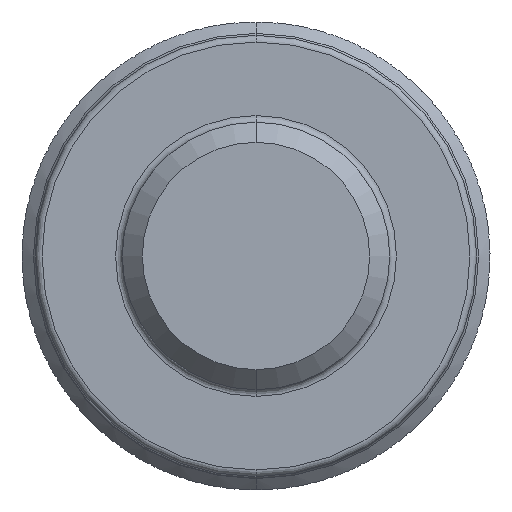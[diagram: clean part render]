
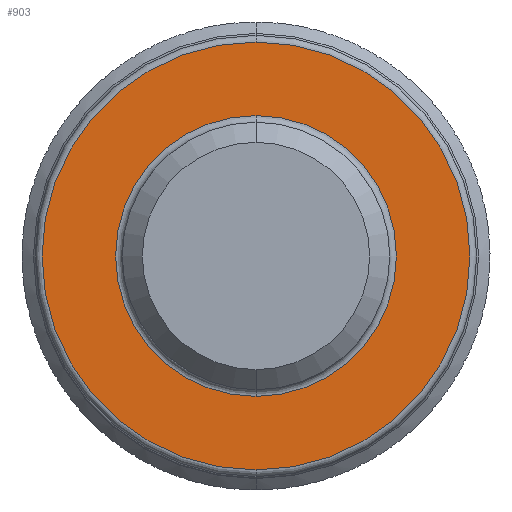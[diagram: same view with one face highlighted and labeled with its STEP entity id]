
A CAD part, front view. The second image highlights one B-rep face of the part: STEP entity #903.
In plain terms, the highlighted planar face has unit normal (0, -1, 0).
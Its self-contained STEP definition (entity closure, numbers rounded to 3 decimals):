
#3 = VERTEX_POINT ( 'NONE', #3061 ) ;
#420 = ORIENTED_EDGE ( 'NONE', *, *, #3826, .T. ) ;
#633 = DIRECTION ( 'NONE',  ( 0., 0., -1. ) ) ;
#760 = DIRECTION ( 'NONE',  ( 0., 0., -1. ) ) ;
#903 = ADVANCED_FACE ( 'NONE', ( #3711, #6793 ), #2948, .T. ) ;
#974 = CARTESIAN_POINT ( 'NONE',  ( 0., -4., 3.2 ) ) ;
#1297 = ORIENTED_EDGE ( 'NONE', *, *, #8591, .T. ) ;
#1489 = CARTESIAN_POINT ( 'NONE',  ( 0., -4., 0. ) ) ;
#1947 = ORIENTED_EDGE ( 'NONE', *, *, #2891, .T. ) ;
#2070 = CIRCLE ( 'NONE', #7887, 3.2 ) ;
#2741 = EDGE_LOOP ( 'NONE', ( #1947, #1297 ) ) ;
#2891 = EDGE_CURVE ( 'NONE', #3938, #3, #8259, .T. ) ;
#2934 = DIRECTION ( 'NONE',  ( 0., 0., -1. ) ) ;
#2948 = PLANE ( 'NONE',  #7127 ) ;
#3061 = CARTESIAN_POINT ( 'NONE',  ( 0., -4., 2.1 ) ) ;
#3163 = DIRECTION ( 'NONE',  ( 0., 1., 0. ) ) ;
#3182 = CARTESIAN_POINT ( 'NONE',  ( 0., -4., -2.1 ) ) ;
#3571 = VERTEX_POINT ( 'NONE', #974 ) ;
#3711 = FACE_BOUND ( 'NONE', #2741, .T. ) ;
#3826 = EDGE_CURVE ( 'NONE', #3571, #8556, #2070, .T. ) ;
#3938 = VERTEX_POINT ( 'NONE', #3182 ) ;
#4572 = AXIS2_PLACEMENT_3D ( 'NONE', #9219, #3163, #760 ) ;
#5389 = CARTESIAN_POINT ( 'NONE',  ( 0., -4., -3.2 ) ) ;
#5491 = AXIS2_PLACEMENT_3D ( 'NONE', #6146, #6915, #9267 ) ;
#6030 = CARTESIAN_POINT ( 'NONE',  ( 2., -4., 0. ) ) ;
#6146 = CARTESIAN_POINT ( 'NONE',  ( 0., -4., 0. ) ) ;
#6793 = FACE_OUTER_BOUND ( 'NONE', #9597, .T. ) ;
#6915 = DIRECTION ( 'NONE',  ( 0., 1., 0. ) ) ;
#7127 = AXIS2_PLACEMENT_3D ( 'NONE', #6030, #9145, #8383 ) ;
#7653 = DIRECTION ( 'NONE',  ( 0., -1., 0. ) ) ;
#7802 = CIRCLE ( 'NONE', #4572, 2.1 ) ;
#7887 = AXIS2_PLACEMENT_3D ( 'NONE', #1489, #7653, #633 ) ;
#8133 = AXIS2_PLACEMENT_3D ( 'NONE', #9885, #8468, #2934 ) ;
#8259 = CIRCLE ( 'NONE', #5491, 2.1 ) ;
#8360 = ORIENTED_EDGE ( 'NONE', *, *, #9206, .T. ) ;
#8383 = DIRECTION ( 'NONE',  ( 0., 0., -1. ) ) ;
#8468 = DIRECTION ( 'NONE',  ( 0., -1., 0. ) ) ;
#8556 = VERTEX_POINT ( 'NONE', #5389 ) ;
#8591 = EDGE_CURVE ( 'NONE', #3, #3938, #7802, .T. ) ;
#9114 = CIRCLE ( 'NONE', #8133, 3.2 ) ;
#9145 = DIRECTION ( 'NONE',  ( 0., -1., 0. ) ) ;
#9206 = EDGE_CURVE ( 'NONE', #8556, #3571, #9114, .T. ) ;
#9219 = CARTESIAN_POINT ( 'NONE',  ( 0., -4., 0. ) ) ;
#9267 = DIRECTION ( 'NONE',  ( 0., 0., -1. ) ) ;
#9597 = EDGE_LOOP ( 'NONE', ( #8360, #420 ) ) ;
#9885 = CARTESIAN_POINT ( 'NONE',  ( 0., -4., 0. ) ) ;
